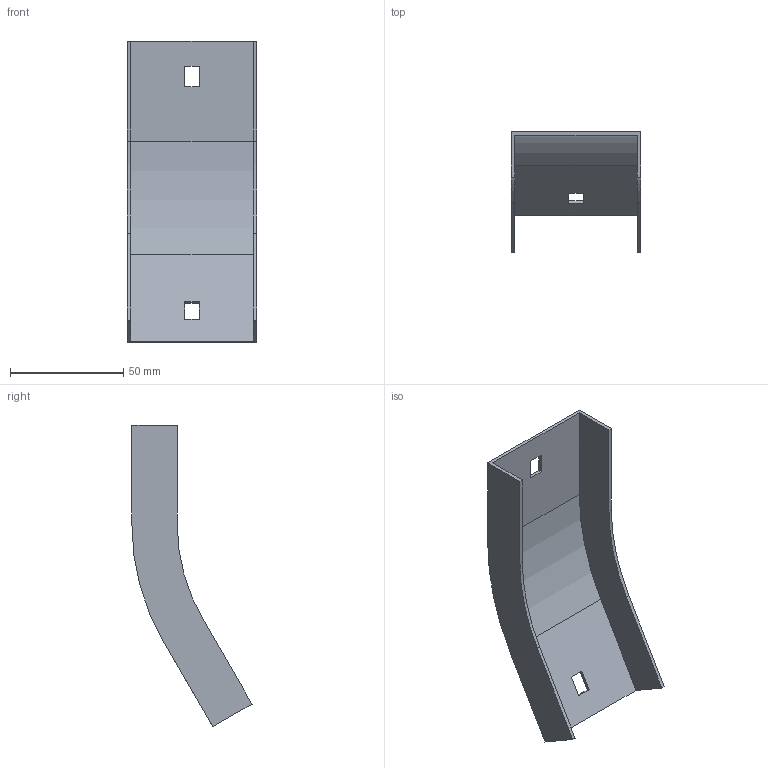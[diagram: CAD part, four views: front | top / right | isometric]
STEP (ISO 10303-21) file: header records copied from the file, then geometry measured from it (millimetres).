
FILE_DESCRIPTION (( 'STEP AP214' ), '1' );
FILE_NAME ('35G1B050.step', '2025-02-21T12:40:57', ( '' ), ( '' ), 'SwSTEP 2.0', 'SolidWorks 2023', '' );
FILE_SCHEMA (( 'AUTOMOTIVE_DESIGN' ));
Length unit declared in the file: millimetre
Products named in the file (1): 35G1B050
Bounding box: 57 x 52.92 x 132.86 mm (x, y, z)
Volume: 19380 mm3; surface area: 26608.2 mm2
Topology: 1 solids, 1 shells, 26 faces, 72 edges, 48 vertices
Faces by surface type: plane 22, cylinder 4
Entity records: 855 total; most frequent: CARTESIAN_POINT 147, ORIENTED_EDGE 144, DIRECTION 134, EDGE_CURVE 72, LINE 64, VECTOR 64, VERTEX_POINT 48, AXIS2_PLACEMENT_3D 35
